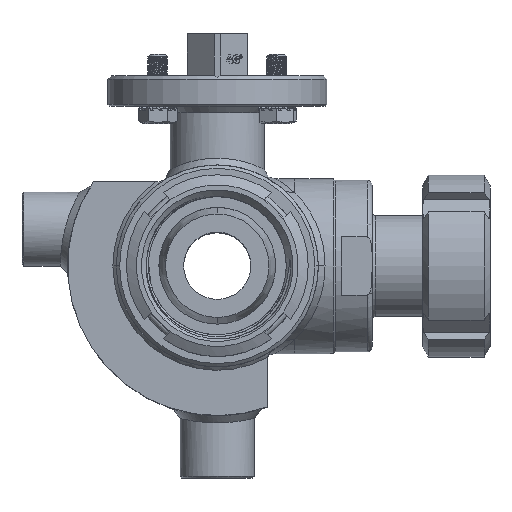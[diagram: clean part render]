
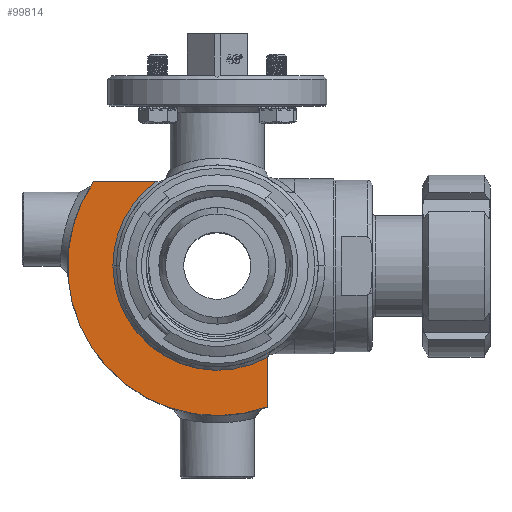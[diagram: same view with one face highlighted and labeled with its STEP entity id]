
A CAD part, top view. The second image highlights one B-rep face of the part: STEP entity #99814.
In plain terms, the highlighted planar face has unit normal (0, 0, 1).
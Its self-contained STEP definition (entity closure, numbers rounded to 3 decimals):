
#8782=CARTESIAN_POINT('',(0.,0.,31.));
#8783=DIRECTION('',(0.,0.,-1.));
#8784=DIRECTION('',(-1.,0.,0.));
#8785=AXIS2_PLACEMENT_3D('',#8782,#8783,#8784);
#8790=CARTESIAN_POINT('',(0.,0.,31.));
#8791=DIRECTION('',(0.,0.,-1.));
#8792=DIRECTION('',(0.484,-0.875,0.));
#8793=AXIS2_PLACEMENT_3D('',#8790,#8791,#8792);
#8798=DIRECTION('',(0.,-1.,0.));
#8799=VECTOR('',#8798,14.713);
#8800=CARTESIAN_POINT('',(15.,-27.129,31.));
#8801=LINE('',#8800,#8799);
#8805=CARTESIAN_POINT('',(0.,0.,31.));
#8806=DIRECTION('',(0.,0.,-1.));
#8807=DIRECTION('',(0.337,-0.941,0.));
#8808=AXIS2_PLACEMENT_3D('',#8805,#8806,#8807);
#8813=DIRECTION('',(1.,0.,0.));
#8814=VECTOR('',#8813,18.423);
#8815=CARTESIAN_POINT('',(-36.753,25.,31.));
#8816=LINE('',#8815,#8814);
#89243=CARTESIAN_POINT('',(15.,-41.843,31.));
#89244=CARTESIAN_POINT('',(-36.753,25.,31.));
#89245=VERTEX_POINT('',#89243);
#89246=VERTEX_POINT('',#89244);
#89325=CARTESIAN_POINT('',(-31.,0.,31.));
#89326=CARTESIAN_POINT('',(-18.33,25.,31.));
#89327=VERTEX_POINT('',#89325);
#89328=VERTEX_POINT('',#89326);
#89329=CARTESIAN_POINT('',(15.,-27.129,31.));
#89330=VERTEX_POINT('',#89329);
#99800=CARTESIAN_POINT('',(0.,0.,31.));
#99801=DIRECTION('',(0.,0.,-1.));
#99802=DIRECTION('',(-1.,0.,0.));
#99803=AXIS2_PLACEMENT_3D('',#99800,#99801,#99802);
#99804=PLANE('',#99803);
#99806=ORIENTED_EDGE('',*,*,#99805,.F.);
#99807=ORIENTED_EDGE('',*,*,#99767,.F.);
#99808=ORIENTED_EDGE('',*,*,#99655,.T.);
#99809=ORIENTED_EDGE('',*,*,#99391,.T.);
#99811=ORIENTED_EDGE('',*,*,#99810,.T.);
#99812=EDGE_LOOP('',(#99806,#99807,#99808,#99809,#99811));
#99813=FACE_OUTER_BOUND('',#99812,.F.);
#99814=ADVANCED_FACE('',(#99813),#99804,.F.);
#8786=CIRCLE('',#8785,31.);
#8794=CIRCLE('',#8793,31.);
#8809=CIRCLE('',#8808,44.45);
#99391=EDGE_CURVE('',#89245,#89246,#8809,.T.);
#99655=EDGE_CURVE('',#89330,#89245,#8801,.T.);
#99767=EDGE_CURVE('',#89330,#89327,#8794,.T.);
#99805=EDGE_CURVE('',#89327,#89328,#8786,.T.);
#99810=EDGE_CURVE('',#89246,#89328,#8816,.T.);
